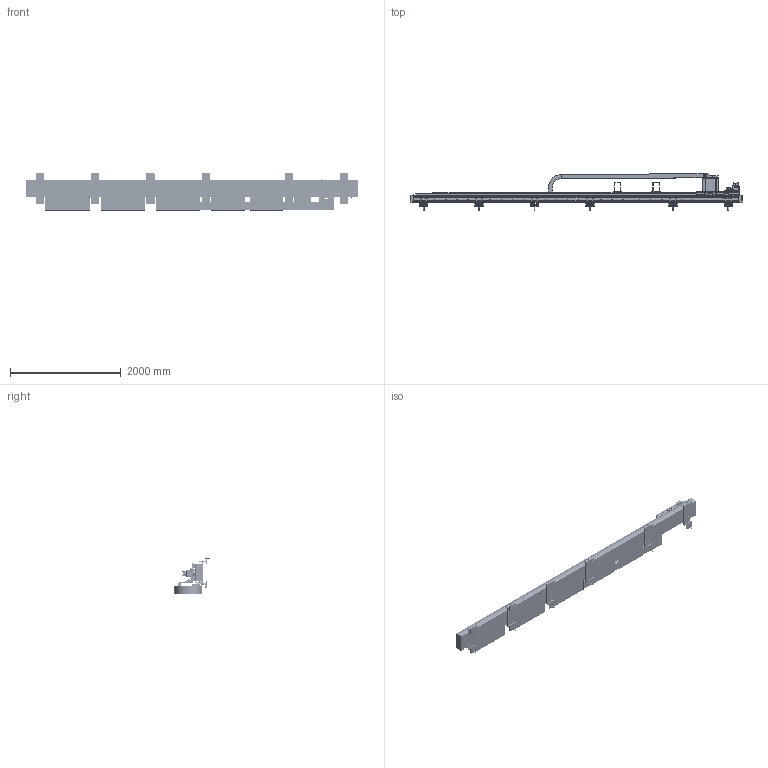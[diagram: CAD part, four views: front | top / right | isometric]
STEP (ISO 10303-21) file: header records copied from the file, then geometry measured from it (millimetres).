
FILE_DESCRIPTION (( 'STEP AP214' ), '1' );
FILE_NAME ('306535-500-1(TM1050_5000TR)_ŽÐŠOŒü‚¯.STEP', '2024-05-14T01:50:29', ( '' ), ( '' ), 'SwSTEP 2.0', 'SolidWorks 2021', '' );
FILE_SCHEMA (( 'AUTOMOTIVE_DESIGN' ));
Length unit declared in the file: millimetre
Products named in the file (3): 306535-500-1(TM1050_5000TR)_社外向け; 306535-100-0_可動部 Assy_社外向け; 306535-500-1(TM1050_5000TR)_固定部
Assembly tree (2 placements, depth 2):
  306535-500-1(TM1050_5000TR)_社外向け
    306535-500-1(TM1050_5000TR)_固定部
    306535-100-0_可動部 Assy_社外向け
Bounding box: 5994 x 662 x 682.5 mm (x, y, z)
Surface area: 20344260 mm2 (no closed solid volume)
Topology: 0 solids, 660 shells, 3856 faces, 14457 edges, 11024 vertices
Faces by surface type: plane 2290, cylinder 1195, cone 248, bspline 101, torus 20, sphere 2
Entity records: 204930 total; most frequent: CARTESIAN_POINT 37251, DIRECTION 27389, ORIENTED_EDGE 20844, EDGE_CURVE 14437, VERTEX_POINT 11024, AXIS2_PLACEMENT_3D 9977, VECTOR 7435, LINE 7435
